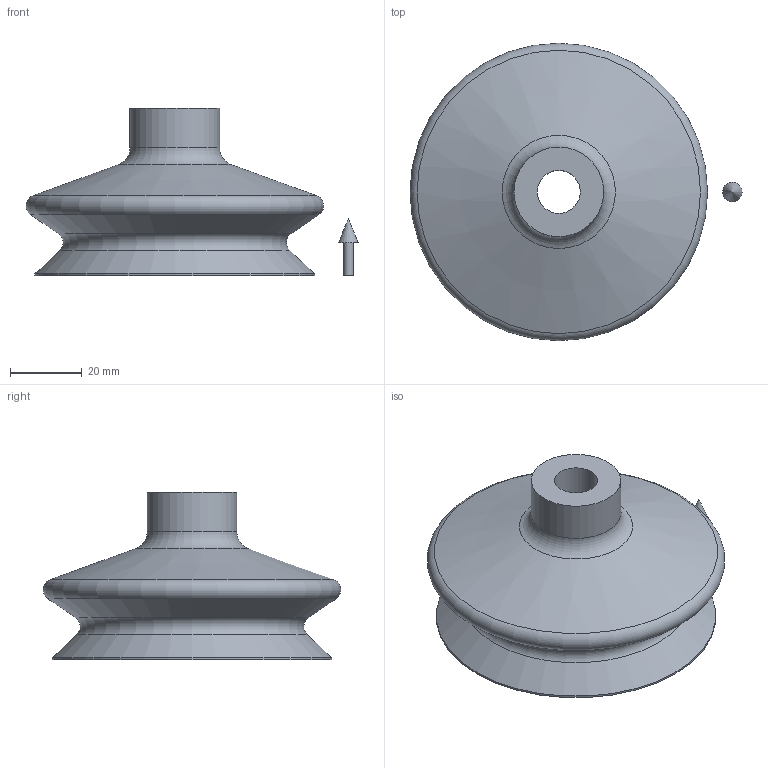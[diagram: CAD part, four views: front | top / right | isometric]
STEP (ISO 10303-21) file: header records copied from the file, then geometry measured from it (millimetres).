
FILE_DESCRIPTION(('STEP AP214'),'1');
FILE_NAME('CA.08.31.011.stp','2019-04-17T13:27:09',(' '),(' '),'Spatial InterOp 3D',' ',' ');
FILE_SCHEMA(('AUTOMOTIVE_DESIGN { 1 0 10303 214 1 1 1 1 }'));
Length unit declared in the file: millimetre
Products named in the file (1): 1
Bounding box: 92.6 x 83 x 46.7 mm (x, y, z)
Volume: 50930.2 mm3; surface area: 27436.3 mm2
Topology: 2 solids, 2 shells, 26 faces, 49 edges, 31 vertices
Faces by surface type: plane 8, cylinder 7, cone 6, torus 5
Full cylindrical faces by diameter (mm): 2.7 x1, 12 x1, 22 x1, 25 x1, 28 x1, 42 x1, 78 x1
Entity records: 750 total; most frequent: DIRECTION 106, CARTESIAN_POINT 79, AXIS2_PLACEMENT_3D 53, EDGE_LOOP 50, ORIENTED_EDGE 50, FACE_OUTER_BOUND 38, STYLED_ITEM 26, PRESENTATION_STYLE_ASSIGNMENT 26
